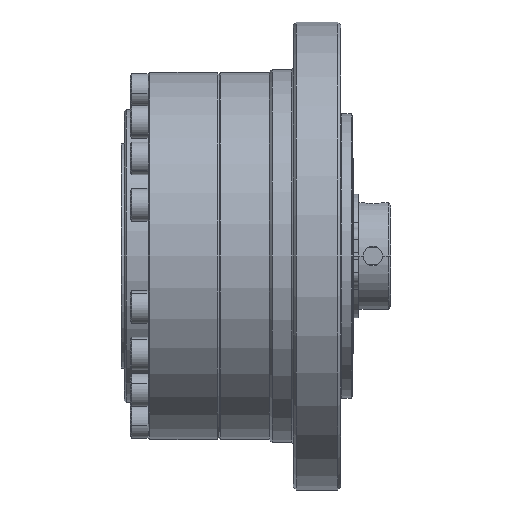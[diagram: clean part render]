
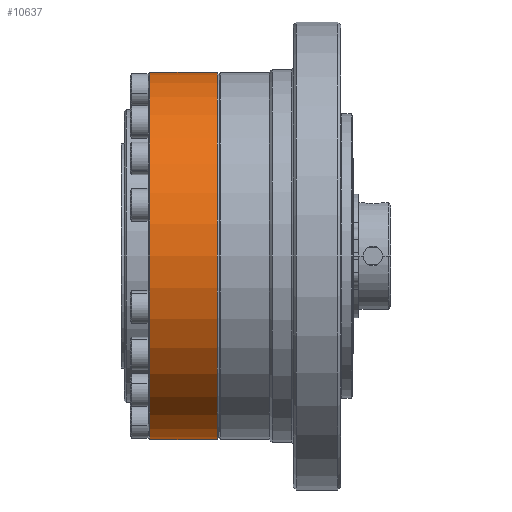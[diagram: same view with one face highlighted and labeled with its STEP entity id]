
A CAD part, front view. The second image highlights one B-rep face of the part: STEP entity #10637.
In plain terms, the highlighted cylindrical face has radius 31 mm (diameter 62 mm), a partial arc.
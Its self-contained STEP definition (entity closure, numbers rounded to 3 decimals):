
#316 = CIRCLE ( 'NONE', #9256, 31. ) ;
#736 = DIRECTION ( 'NONE',  ( 0., 0., 1. ) ) ;
#1411 = VERTEX_POINT ( 'NONE', #17715 ) ;
#1642 = DIRECTION ( 'NONE',  ( -1., 0., 0. ) ) ;
#1669 = CARTESIAN_POINT ( 'NONE',  ( -25.725, 5.982, 79. ) ) ;
#1758 = CYLINDRICAL_SURFACE ( 'NONE', #8730, 31. ) ;
#2515 = CARTESIAN_POINT ( 'NONE',  ( -26.025, 5.982, 79. ) ) ;
#3056 = ORIENTED_EDGE ( 'NONE', *, *, #6574, .T. ) ;
#3399 = DIRECTION ( 'NONE',  ( -1., 0., 0. ) ) ;
#3716 = CARTESIAN_POINT ( 'NONE',  ( -25.725, 5.982, 110. ) ) ;
#3882 = DIRECTION ( 'NONE',  ( 0., 0., -1. ) ) ;
#4120 = ORIENTED_EDGE ( 'NONE', *, *, #14357, .T. ) ;
#4853 = VERTEX_POINT ( 'NONE', #6561 ) ;
#6278 = ORIENTED_EDGE ( 'NONE', *, *, #12810, .T. ) ;
#6561 = CARTESIAN_POINT ( 'NONE',  ( -26.025, 5.982, 48. ) ) ;
#6574 = EDGE_CURVE ( 'NONE', #12003, #1411, #11198, .T. ) ;
#6861 = AXIS2_PLACEMENT_3D ( 'NONE', #2515, #12123, #3882 ) ;
#7103 = VECTOR ( 'NONE', #3399, 1000. ) ;
#7906 = DIRECTION ( 'NONE',  ( 1., 0., 0. ) ) ;
#8394 = CARTESIAN_POINT ( 'NONE',  ( -25.725, 5.982, 48. ) ) ;
#8730 = AXIS2_PLACEMENT_3D ( 'NONE', #1669, #1642, #736 ) ;
#9256 = AXIS2_PLACEMENT_3D ( 'NONE', #16281, #7906, #17639 ) ;
#9257 = VERTEX_POINT ( 'NONE', #11699 ) ;
#9487 = FACE_OUTER_BOUND ( 'NONE', #16399, .T. ) ;
#10637 = ADVANCED_FACE ( 'NONE', ( #9487 ), #1758, .T. ) ;
#11198 = LINE ( 'NONE', #3716, #7103 ) ;
#11699 = CARTESIAN_POINT ( 'NONE',  ( -37.425, 5.982, 48. ) ) ;
#12003 = VERTEX_POINT ( 'NONE', #16157 ) ;
#12123 = DIRECTION ( 'NONE',  ( -1., 0., 0. ) ) ;
#12810 = EDGE_CURVE ( 'NONE', #1411, #9257, #316, .T. ) ;
#14078 = CIRCLE ( 'NONE', #6861, 31. ) ;
#14334 = ORIENTED_EDGE ( 'NONE', *, *, #14534, .F. ) ;
#14357 = EDGE_CURVE ( 'NONE', #4853, #12003, #14078, .T. ) ;
#14534 = EDGE_CURVE ( 'NONE', #4853, #9257, #17945, .T. ) ;
#15363 = DIRECTION ( 'NONE',  ( -1., 0., 0. ) ) ;
#16157 = CARTESIAN_POINT ( 'NONE',  ( -26.025, 5.982, 110. ) ) ;
#16281 = CARTESIAN_POINT ( 'NONE',  ( -37.425, 5.982, 79. ) ) ;
#16399 = EDGE_LOOP ( 'NONE', ( #14334, #4120, #3056, #6278 ) ) ;
#17539 = VECTOR ( 'NONE', #15363, 1000. ) ;
#17639 = DIRECTION ( 'NONE',  ( 0., 0., 1. ) ) ;
#17715 = CARTESIAN_POINT ( 'NONE',  ( -37.425, 5.982, 110. ) ) ;
#17945 = LINE ( 'NONE', #8394, #17539 ) ;
